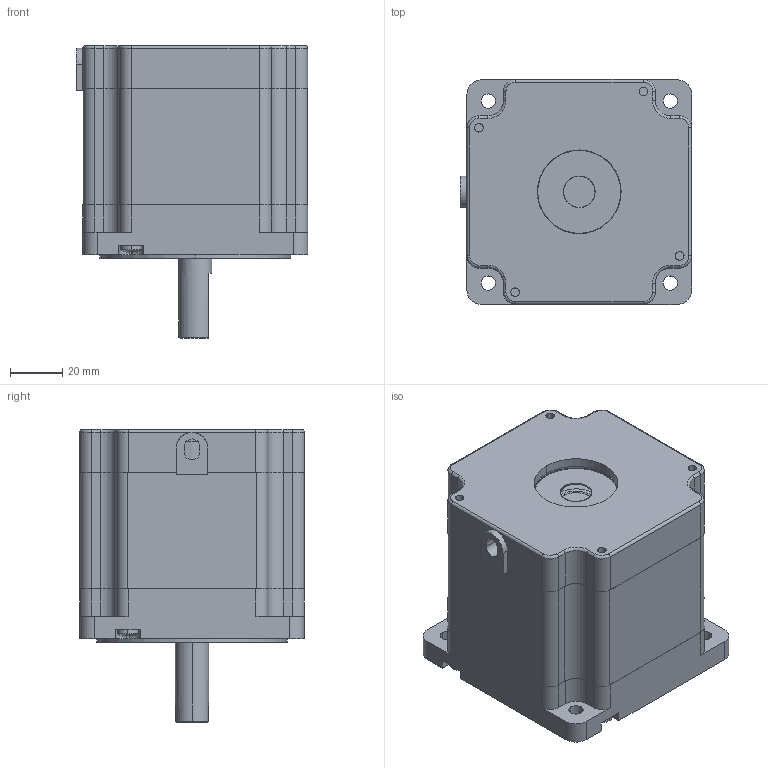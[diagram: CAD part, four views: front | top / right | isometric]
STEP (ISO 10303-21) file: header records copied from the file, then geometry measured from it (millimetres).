
FILE_DESCRIPTION (( 'STEP AP203' ), '1' );
FILE_NAME ('YK86HB80-04A.STEP', '2018-05-29T09:58:25', ( 'PC' ), ( '' ), 'SwSTEP 2.0', 'SolidWorks 2014', '' );
FILE_SCHEMA (( 'CONFIG_CONTROL_DESIGN' ));
Length unit declared in the file: millimetre
Products named in the file (11): 粣創1; 86挡圈; 86綴裔; YK86HB80-04A; 粣創2; 86隅赽; M4.0蹟佪; 86蛌赽; 86砎々菜; 86ヶ裔; 粣創杶
Assembly tree (13 placements, depth 2):
  YK86HB80-04A
    86隅赽
    86ヶ裔
    86綴裔
    86蛌赽
    粣創1
    粣創2
    86砎々菜
    86挡圈
    M4.0蹟佪  x4
    粣創杶
Bounding box: 88.4 x 85.9 x 112 mm (x, y, z)
Volume: 312854.2 mm3; surface area: 113742.2 mm2
Topology: 9 solids, 22 shells, 1547 faces, 4231 edges, 2784 vertices
Faces by surface type: plane 1283, cylinder 201, bspline 50, cone 13
Entity records: 48944 total; most frequent: CARTESIAN_POINT 10488, ORIENTED_EDGE 8010, DIRECTION 7218, EDGE_CURVE 4015, LINE 3482, VECTOR 3482, VERTEX_POINT 2667, AXIS2_PLACEMENT_3D 1868
